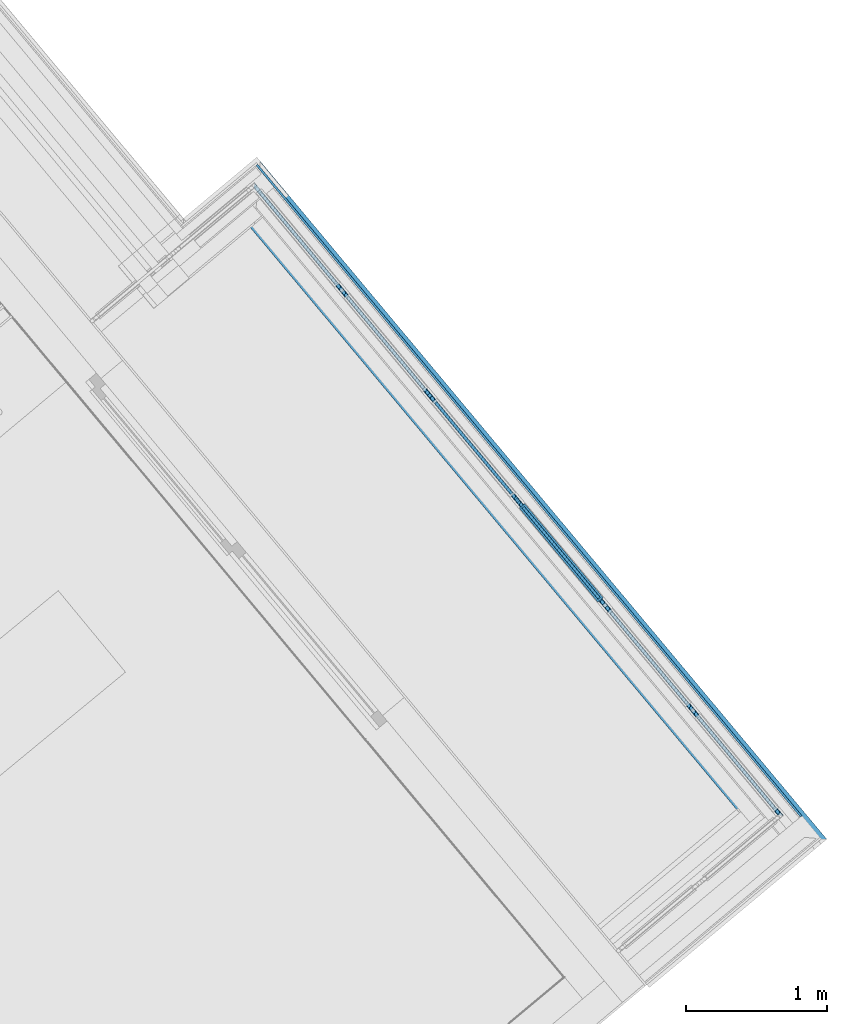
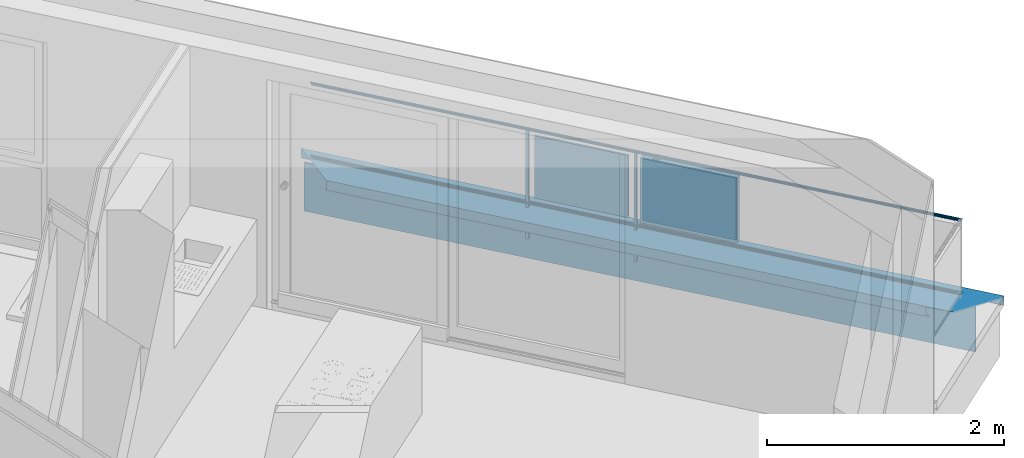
# One storey, part 39 of 58: 9 building element parts, 2 elements without a shape of their own.
"""IFC4 building model written with IfcOpenShell, lengths in metres."""

from ifc_helpers import new_model, entity, si_unit, converted_unit, derived_unit, direction, frame, origin_with_axes, place, context, subcontext, project, spatial, polygons, material, type_object, element, aggregate, save


model = new_model("IFC4")

# Units and contexts
model_context = context("Model", 3, precision=1e-05, world=origin_with_axes(), true_north=direction((0.0, 1.0)))
body_context = subcontext(model_context, "Body", "Model", "MODEL_VIEW")
ifc_project = project(units=[si_unit("LENGTHUNIT", "METRE"), si_unit("AREAUNIT", "SQUARE_METRE"), si_unit("VOLUMEUNIT", "CUBIC_METRE"), converted_unit("PLANEANGLEUNIT", "DEGREE", entity("IfcPlaneAngleMeasure", 0.0174532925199), si_unit("PLANEANGLEUNIT", "RADIAN"), dimensions=[0, 0, 0, 0, 0, 0, 0]), converted_unit("TIMEUNIT", "Year", entity("IfcTimeMeasure", 31556926.0), si_unit("TIMEUNIT", "SECOND"), dimensions=[0, 0, 1, 0, 0, 0, 0]), si_unit("MASSUNIT", "GRAM", prefix="KILO"), si_unit("THERMODYNAMICTEMPERATUREUNIT", "DEGREE_CELSIUS"), si_unit("LUMINOUSINTENSITYUNIT", "LUMEN"), si_unit("ENERGYUNIT", "JOULE", prefix="MEGA"), derived_unit("THERMALCONDUCTANCEUNIT", [(si_unit("POWERUNIT", "WATT"), 1), (si_unit("LENGTHUNIT", "METRE"), -1), (si_unit("THERMODYNAMICTEMPERATUREUNIT", "KELVIN"), -1)]), derived_unit("SPECIFICHEATCAPACITYUNIT", [(si_unit("ENERGYUNIT", "JOULE"), 1), (si_unit("MASSUNIT", "GRAM", prefix="KILO"), -1), (si_unit("THERMODYNAMICTEMPERATUREUNIT", "KELVIN"), -1)]), derived_unit("MASSDENSITYUNIT", [(si_unit("MASSUNIT", "GRAM", prefix="KILO"), 1), (si_unit("VOLUMEUNIT", "CUBIC_METRE"), -1)])], contexts=[model_context])

# Site, building, storey
site_placement = place(None, frame((-0.00153261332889, -0.00661245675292, 0.0), z_axis=(0.0, 0.0, 1.0), x_axis=(1.0, 0.0, 0.0)))
site = spatial("IfcSite", under=ifc_project, at=site_placement, Name="Site", CompositionType="ELEMENT")
building_placement = place(site_placement, origin_with_axes())
building = spatial("IfcBuilding", under=site, at=building_placement, Name="Building", CompositionType="ELEMENT")
storey_placement = place(building_placement, frame((0.0, 0.0, 5.7), z_axis=(0.0, 0.0, 1.0), x_axis=(1.0, 0.0, 0.0)))
storey = spatial("IfcBuildingStorey", under=building, at=storey_placement, Name="DG1", CompositionType="ELEMENT", Elevation=5.7)

# Wall, building element parts
wall_type = type_object("IfcWallType", Name="Bauteil - Attika Balkon 356 x 610", PredefinedType="NOTDEFINED")
wall_placement = place(storey_placement, frame((10.5963712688, 25.814957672, -0.2), z_axis=(0.0, 0.0, 1.0), x_axis=(0.641206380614, -0.767368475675, 0.0)))
wall = element("IfcWall", 1, at=wall_placement, inside=storey, type_object=wall_type, Name="Wand-004", PredefinedType="NOTDEFINED")
ifc_material_1 = material(Name="Zementputz")
building_element_part_1_placement = place(wall_placement, origin_with_axes())
building_element_part_1 = element("IfcBuildingElementPart", 2, at=building_element_part_1_placement, material=ifc_material_1, Name="Zementputz", PredefinedType="NOTDEFINED", context=body_context, shape_type="Tessellation", body=[
    polygons([(5.82966833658, 0.199999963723, 0.500000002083), (5.82966827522, 0.214999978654, 0.500000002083), (-0.200000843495, 0.214999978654, 0.500000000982), (-0.200000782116, 0.199999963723, 0.500000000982), (5.82966827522, 0.214999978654, 0.498915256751), (5.82966833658, 0.199999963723, 0.498915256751), (5.82966827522, 0.214999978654, 0.498822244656), (5.82966827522, 0.214999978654, 0.496604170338), (5.82966827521, 0.214999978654, 0.491006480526), (5.82966827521, 0.214999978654, 0.488695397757), (5.82966827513, 0.214999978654, 0.335), (5.82966827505, 0.214999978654, 0.200000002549), (5.82966827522, 0.214999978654, 0.0), (-0.200000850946, 0.214999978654, 0.0), (-0.200000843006, 0.214999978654, 0.2), (-0.200000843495, 0.214999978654, 0.334999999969), (-0.200000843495, 0.214999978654, 0.496604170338), (-0.200000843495, 0.214999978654, 0.498915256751), (-0.200000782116, 0.199999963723, 0.498915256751), (-0.200000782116, 0.199999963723, 0.496604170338), (-0.200000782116, 0.199999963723, 0.334999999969), (-0.200000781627, 0.199999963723, 0.2), (5.82966833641, 0.199999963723, 0.200000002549), (5.82966833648, 0.199999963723, 0.335), (5.82966833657, 0.199999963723, 0.488695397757), (5.82966833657, 0.199999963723, 0.491006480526), (5.82966833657, 0.199999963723, 0.496604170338), (5.82966833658, 0.199999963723, 0.498822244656), (5.82966833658, 0.199999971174, 0.0), (-0.200000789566, 0.199999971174, 0.0)], [[[1, 2, 3, 4]], [[5, 2, 1, 6]], [[2, 5, 7, 8, 9, 10, 11, 12, 13, 14, 15, 16, 17, 18, 3]], [[4, 3, 18, 19]], [[6, 1, 4, 19, 20, 21, 22, 23, 24, 25, 26, 27, 28]], [[5, 6, 28, 7]], [[7, 28, 27, 8]], [[8, 27, 26, 9]], [[9, 26, 25, 10]], [[10, 25, 24, 11]], [[11, 24, 23, 12]], [[12, 23, 29, 13]], [[13, 29, 30, 14]], [[22, 15, 14, 30]], [[21, 16, 15, 22]], [[20, 17, 16, 21]], [[19, 18, 17, 20]], [[29, 23, 22, 30]]], closed=True),
])
ifc_material_2 = material(Name="Stahl")
building_element_part_2_placement = place(wall_placement, origin_with_axes())
building_element_part_2 = element("IfcBuildingElementPart", 3, at=building_element_part_2_placement, material=ifc_material_2, Name="Stahl", PredefinedType="NOTDEFINED", context=body_context, shape_type="Tessellation", body=[
    polygons([(0.113601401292, -0.113600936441, 0.498915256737), (0.113601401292, -0.11360093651, 0.499999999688), (0.113601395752, -0.112247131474, 0.499999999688), (0.113601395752, -0.112247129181, 0.498915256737), (0.113601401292, -0.113600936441, 0.497561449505), (5.49897152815, -0.113600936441, 0.497561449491), (5.49897152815, -0.113600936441, 0.498822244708), (5.49897152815, -0.113600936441, 0.498915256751), (5.49897152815, -0.11360093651, 0.499999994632), (5.49897152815, -0.113600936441, 0.506731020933), (5.49897152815, -0.113600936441, 0.509050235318), (5.49897152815, -0.113600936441, 0.509099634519), (5.49897152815, -0.11360093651, 0.51136132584), (5.49897152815, -0.11360093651, 0.511410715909), (5.49897152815, -0.1136009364, 0.519224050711), (5.49897152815, -0.1136009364, 0.519273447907), (5.49897152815, -0.11360093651, 0.560000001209), (5.49897152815, -0.11360093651, 0.567947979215), (5.49897152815, -0.11360093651, 0.57388065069), (5.49897152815, -0.11360093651, 0.575576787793), (5.49897152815, -0.11360093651, 0.575979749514), (5.49897152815, -0.11360093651, 0.57982217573), (5.49897152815, -0.11360093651, 0.581921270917), (5.49897152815, -0.11360093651, 0.584015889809), (5.49897152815, -0.11360093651, 0.586106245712), (5.49897153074, -0.11360093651, 0.587937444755), (5.71744240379, -0.11360093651, 0.595846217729), (5.75350991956, -0.11360093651, 0.597151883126), (0.113601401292, -0.11360093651, 0.597151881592), (0.113601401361, -0.11360093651, 0.595846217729), (0.113601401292, -0.11360093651, 0.586106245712), (0.113601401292, -0.11360093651, 0.584015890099), (0.113601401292, -0.11360093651, 0.581921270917), (0.113601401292, -0.11360093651, 0.57982217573), (0.113601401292, -0.11360093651, 0.575576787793), (0.113601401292, -0.11360093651, 0.559999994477), (0.113601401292, -0.1136009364, 0.519273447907), (0.113601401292, -0.11360093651, 0.511410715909), (0.113601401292, -0.113600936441, 0.509099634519), (0.113601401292, -0.113600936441, 0.506731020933), (0.113601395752, -0.112247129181, 0.506731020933), (0.113601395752, -0.112247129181, 0.509099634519), (0.113601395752, -0.112247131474, 0.511410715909), (0.113601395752, -0.112247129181, 0.519273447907), (0.113601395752, -0.112247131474, 0.559999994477), (0.113601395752, -0.112247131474, 0.575576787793), (0.113601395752, -0.112247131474, 0.57982217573), (0.113601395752, -0.112247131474, 0.581921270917), (0.113601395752, -0.112247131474, 0.584015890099), (0.113601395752, -0.112247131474, 0.586106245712), (0.113601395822, -0.112247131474, 0.595846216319), (5.71744235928, -0.112247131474, 0.595846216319), (5.4989715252, -0.112247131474, 0.587937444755), (5.49897152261, -0.112247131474, 0.586106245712), (5.49897152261, -0.112247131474, 0.584015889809), (5.49897152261, -0.112247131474, 0.581921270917), (5.49897152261, -0.112247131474, 0.57982217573), (5.49897152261, -0.112247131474, 0.575979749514), (5.49897152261, -0.112247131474, 0.575576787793), (5.49897152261, -0.112247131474, 0.57388065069), (5.49897152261, -0.112247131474, 0.567947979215), (5.49897152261, -0.112247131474, 0.560000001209), (5.49897152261, -0.112247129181, 0.519273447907), (5.49897152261, -0.112247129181, 0.519224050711), (5.49897152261, -0.112247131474, 0.511410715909), (5.49897152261, -0.112247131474, 0.51136132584), (5.49897152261, -0.112247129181, 0.509099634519), (5.49897152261, -0.112247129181, 0.509050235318), (5.49897152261, -0.112247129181, 0.506731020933), (5.49897152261, -0.112247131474, 0.499999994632), (5.49897152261, -0.112247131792, 0.498915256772), (0.113601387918, -0.110332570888, 0.498915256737), (0.113601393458, -0.11168637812, 0.497561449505), (0.11264411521, -0.112643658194, 0.496604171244), (5.49897152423, -0.112643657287, 0.496604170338), (5.49897151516, -0.110425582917, 0.498822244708), (5.49897151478, -0.110332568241, 0.498915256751), (6.06894466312, 0.23927660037, 0.608570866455), (6.06894481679, 0.201708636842, 0.608570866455), (-0.201709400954, 0.20170855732, 0.608570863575), (6.06982112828, 0.202589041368, 0.608602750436), (6.0711685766, 0.202589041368, 0.608602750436), (6.07116841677, 0.241343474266, 0.610006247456), (5.82966915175, 0.241343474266, 0.610006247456), (5.82966915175, 0.242707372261, 0.610055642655), (-0.242708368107, 0.242707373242, 0.610055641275), (-0.203953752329, 0.203952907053, 0.608652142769), (0.113601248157, -0.0761775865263, 0.597151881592), (-0.201709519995, 0.239276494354, 0.608570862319), (0.112247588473, -0.112247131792, 0.498915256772), (5.49897151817, -0.111162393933, 0.499999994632), (5.52966960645, -0.111162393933, 0.499999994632), (5.52966957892, -0.104431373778, 0.506731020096), (0.104431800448, -0.104431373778, 0.506731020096), (0.11116284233, -0.111162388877, 0.499999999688), (0.112247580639, -0.110332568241, 0.498915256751), (0.111162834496, -0.109247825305, 0.499999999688), (0.105342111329, -0.103427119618, 0.505820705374), (5.52966957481, -0.103427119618, 0.505820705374), (5.52966959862, -0.109247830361, 0.499999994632), (5.49897151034, -0.109247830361, 0.499999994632), (6.06982097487, 0.240093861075, 0.608602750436), (6.07116842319, 0.240093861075, 0.608602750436), (6.07116841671, 0.24135992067, 0.60865214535), (6.07116841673, 0.241353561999, 0.511410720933), (6.0711684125, 0.242707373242, 0.511410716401), (6.0711684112, 0.242707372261, 0.610006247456), (5.82966915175, 0.242707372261, 0.610006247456), (-0.24135455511, 0.242707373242, 0.511410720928), (-0.241355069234, 0.242707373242, 0.519273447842), (-0.241357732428, 0.242707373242, 0.559999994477), (-0.241358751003, 0.242707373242, 0.575576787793), (-0.241359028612, 0.242707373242, 0.57982217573), (-0.241359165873, 0.242707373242, 0.581921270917), (-0.241359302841, 0.242707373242, 0.584015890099), (-0.241359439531, 0.242707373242, 0.586106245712), (-0.241360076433, 0.242707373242, 0.595846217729), (-0.241360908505, 0.242707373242, 0.608570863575), (-0.241360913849, 0.242707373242, 0.608652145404), (-0.203953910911, 0.242707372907, 0.608652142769), (6.06981460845, 0.242707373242, 0.511410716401), (6.06976521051, 0.242707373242, 0.511410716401), (6.06981460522, 0.242707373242, 0.51136132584), (6.0711684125, 0.242707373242, 0.51136132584), (6.0711684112, 0.242707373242, 0.510056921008), (-0.240793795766, 0.242707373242, 0.510056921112), (-0.239439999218, 0.242707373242, 0.511410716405), (-0.203953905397, 0.24135985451, 0.608652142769), (-0.241354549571, 0.241353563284, 0.511410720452), (-0.239439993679, 0.241353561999, 0.511410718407), (6.06976521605, 0.241353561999, 0.511410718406), (6.06981461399, 0.241353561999, 0.511410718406), (-0.241360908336, 0.241359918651, 0.608652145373), (-0.241360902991, 0.241359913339, 0.608570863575), (-0.241360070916, 0.241359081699, 0.595846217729), (-0.241359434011, 0.241358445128, 0.586106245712), (-0.241359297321, 0.241358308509, 0.584015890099), (-0.241359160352, 0.241358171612, 0.581921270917), (-0.24135902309, 0.241358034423, 0.57982217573), (-0.241358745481, 0.241357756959, 0.575576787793), (-0.241357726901, 0.241356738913, 0.559999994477), (-0.241355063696, 0.241354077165, 0.519273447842), (6.06976522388, 0.239439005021, 0.511410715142), (6.06981461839, 0.239488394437, 0.51136132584), (6.07116842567, 0.239488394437, 0.51136132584), (6.07116841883, 0.240842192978, 0.510007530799), (6.0711684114, 0.242657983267, 0.510007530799), (-0.241751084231, 0.241750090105, 0.509099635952), (6.07026053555, 0.241750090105, 0.509099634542), (-0.239439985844, 0.239439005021, 0.511410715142), (-0.232581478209, 0.234495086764, 0.518269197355), (-0.233491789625, 0.233490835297, 0.519273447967), (6.06981516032, 0.233490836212, 0.519273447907), (6.06981515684, 0.233540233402, 0.519224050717), (6.06195191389, 0.233540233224, 0.519224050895), (-0.232581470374, 0.232580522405, 0.518269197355), (6.06290676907, 0.232580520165, 0.518269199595), (6.06195191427, 0.233446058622, 0.519224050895), (6.06981515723, 0.233446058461, 0.519224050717)], [[[1, 2, 3, 4]], [[1, 5, 6, 7, 8, 9, 10, 11, 12, 13, 14, 15, 16, 17, 18, 19, 20, 21, 22, 23, 24, 25, 26, 27, 28, 29, 30, 31, 32, 33, 34, 35, 36, 37, 38, 39, 40, 2]], [[2, 40, 41, 3]], [[4, 3, 41, 42, 43, 44, 45, 46, 47, 48, 49, 50, 51, 52, 53, 54, 55, 56, 57, 58, 59, 60, 61, 62, 63, 64, 65, 66, 67, 68, 69, 70, 71]], [[5, 1, 4, 72, 73]], [[5, 74, 75, 6]], [[7, 6, 75, 76]], [[8, 7, 76, 77, 71]], [[9, 8, 71, 70]], [[9, 70, 69, 10]], [[11, 10, 69, 68]], [[12, 11, 68, 67]], [[13, 12, 67, 66]], [[14, 13, 66, 65]], [[14, 65, 64, 15]], [[16, 15, 64, 63]], [[17, 16, 63, 62]], [[18, 17, 62, 61]], [[19, 18, 61, 60]], [[20, 19, 60, 59]], [[21, 20, 59, 58]], [[22, 21, 58, 57]], [[23, 22, 57, 56]], [[24, 23, 56, 55]], [[24, 55, 54, 25]], [[26, 25, 54, 53]], [[27, 26, 53, 52]], [[27, 52, 78, 79, 28]], [[80, 29, 28, 79, 81, 82, 83, 84, 85, 86, 87]], [[30, 29, 88, 51]], [[31, 30, 51, 50]], [[49, 32, 31, 50]], [[48, 33, 32, 49]], [[34, 33, 48, 47]], [[35, 34, 47, 46]], [[36, 35, 46, 45]], [[36, 45, 44, 37]], [[43, 38, 37, 44]], [[39, 38, 43, 42]], [[40, 39, 42, 41]], [[51, 88, 89, 78, 52]], [[90, 4, 71, 91, 92, 93, 94, 95]], [[4, 90, 96, 72]], [[74, 73, 72, 96, 97, 98, 99, 100, 101, 77, 76, 75]], [[74, 5, 73]], [[71, 77, 101, 91]], [[81, 79, 78, 102]], [[29, 80, 89, 88]], [[82, 81, 102, 103]], [[82, 103, 104, 105, 106, 107, 83]], [[84, 83, 107, 108]], [[84, 108, 85]], [[109, 110, 111, 112, 113, 114, 115, 116, 117, 118, 119, 120, 86, 85, 108, 107, 106, 121, 122, 123, 124, 125, 126, 127]], [[87, 86, 120, 128]], [[80, 87, 128, 89]], [[128, 104, 103, 102, 78, 89]], [[100, 92, 91, 101]], [[92, 100, 99, 93]], [[98, 94, 93, 99]], [[97, 95, 94, 98]], [[96, 90, 95, 97]], [[129, 130, 131, 132, 105, 104, 128, 133, 134, 135, 136, 137, 138, 139, 140, 141, 142]], [[105, 132, 121, 106]], [[129, 142, 110, 109]], [[142, 141, 111, 110]], [[141, 140, 112, 111]], [[140, 139, 113, 112]], [[139, 138, 114, 113]], [[138, 137, 115, 114]], [[137, 136, 116, 115]], [[136, 135, 117, 116]], [[135, 134, 118, 117]], [[134, 133, 119, 118]], [[133, 128, 120, 119]], [[132, 131, 122, 121]], [[143, 144, 123, 122, 131]], [[144, 145, 124, 123]], [[145, 146, 147, 125, 124]], [[148, 126, 125, 147, 149]], [[150, 130, 127, 126, 148]], [[130, 129, 109, 127]], [[151, 152, 153, 154, 155, 131, 130]], [[156, 150, 148, 149, 146, 145, 144, 143, 157]], [[157, 143, 131, 155, 158]], [[146, 149, 147]], [[150, 156, 151, 130]], [[151, 156, 152]], [[152, 156, 157, 158, 159, 153]], [[153, 159, 154]], [[154, 159, 158, 155]]], closed=True),
])
aggregate(wall, [building_element_part_1, building_element_part_2])

# Railing, building element parts
railing_type = type_object("IfcRailingType", Name="Geländerart", PredefinedType="NOTDEFINED")
railing_placement = place(storey_placement, frame((13.1317464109, 20.5971564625, 0.38), z_axis=(0.0, 0.0, 1.0), x_axis=(1.0, 0.0, 0.0)))
railing = element("IfcRailing", 4, at=railing_placement, inside=storey, type_object=railing_type, Name="Geländer - 001", PredefinedType="NOTDEFINED")
ifc_material_3 = material(Name="Aluminium")
building_element_part_3_placement = place(railing_placement, origin_with_axes())
building_element_part_3 = element("IfcBuildingElementPart", 5, at=building_element_part_3_placement, material=ifc_material_3, Name="Aluminium", PredefinedType="NOTDEFINED", context=body_context, shape_type="Tessellation", body=[
    polygons([(1.19369716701, 0.886396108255, 0.825), (1.1940181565, 0.886367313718, 0.827604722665), (-2.52461931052, 5.33785427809, 0.827604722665), (-2.52464808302, 5.33753326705, 0.825), (1.1940181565, 0.886367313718, 0.822395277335), (1.19497137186, 0.886281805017, 0.81986969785), (1.19652785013, 0.88614218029, 0.8175), (1.1986402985, 0.885952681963, 0.815358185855), (1.2012445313, 0.885719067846, 0.813509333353), (1.20426142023, 0.885448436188, 0.812009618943), (1.20759929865, 0.885149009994, 0.810904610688), (1.21115674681, 0.884829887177, 0.810227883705), (1.21482567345, 0.884500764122, 0.81), (1.21849460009, 0.884171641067, 0.810227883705), (1.22205204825, 0.88385251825, 0.810904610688), (1.22538992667, 0.883553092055, 0.812009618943), (1.2284068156, 0.883282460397, 0.813509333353), (1.2310110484, 0.883048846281, 0.815358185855), (1.23312349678, 0.882859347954, 0.8175), (1.23467997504, 0.882719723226, 0.81986969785), (1.23563319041, 0.882634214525, 0.822395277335), (1.23595417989, 0.882605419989, 0.825), (1.23563319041, 0.882634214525, 0.827604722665), (1.23467997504, 0.882719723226, 0.83013030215), (1.23312349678, 0.882859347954, 0.8325), (1.2310110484, 0.883048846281, 0.834641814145), (1.2284068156, 0.883282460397, 0.836490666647), (1.22538992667, 0.883553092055, 0.837990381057), (1.22205204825, 0.88385251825, 0.839095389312), (1.21849460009, 0.884171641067, 0.839772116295), (1.21482567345, 0.884500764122, 0.84), (1.21115674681, 0.884829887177, 0.839772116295), (1.20759929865, 0.885149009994, 0.839095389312), (1.20426142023, 0.885448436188, 0.837990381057), (1.2012445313, 0.885719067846, 0.836490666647), (1.1986402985, 0.885952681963, 0.834641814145), (1.19652785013, 0.88614218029, 0.8325), (1.19497137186, 0.886281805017, 0.83013030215), (-2.52453386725, 5.33880755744, 0.83013030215), (-2.52439434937, 5.34036414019, 0.8325), (-2.52420499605, 5.34247673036, 0.834641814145), (-2.5239715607, 5.34508113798, 0.836490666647), (-2.52370113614, 5.34809822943, 0.837990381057), (-2.52340193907, 5.35143633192, 0.839095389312), (-2.52308306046, 5.35499401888, 0.839772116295), (-2.52275418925, 5.35866319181, 0.84), (-2.52242531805, 5.36233236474, 0.839772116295), (-2.52210643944, 5.36589005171, 0.839095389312), (-2.52180724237, 5.36922815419, 0.837990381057), (-2.52153681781, 5.37224524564, 0.836490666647), (-2.52130338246, 5.37484965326, 0.834641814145), (-2.52111402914, 5.37696224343, 0.8325), (-2.52097451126, 5.37851882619, 0.83013030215), (-2.52088906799, 5.37947210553, 0.827604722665), (-2.52086029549, 5.37979311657, 0.825), (-2.52088906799, 5.37947210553, 0.822395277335), (-2.52097451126, 5.37851882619, 0.81986969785), (-2.52111402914, 5.37696224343, 0.8175), (-2.52130338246, 5.37484965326, 0.815358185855), (-2.52153681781, 5.37224524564, 0.813509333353), (-2.52180724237, 5.36922815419, 0.812009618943), (-2.52210643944, 5.36589005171, 0.810904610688), (-2.52242531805, 5.36233236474, 0.810227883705), (-2.52275418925, 5.35866319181, 0.81), (-2.52308306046, 5.35499401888, 0.810227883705), (-2.52340193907, 5.35143633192, 0.810904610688), (-2.52370113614, 5.34809822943, 0.812009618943), (-2.5239715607, 5.34508113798, 0.813509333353), (-2.52420499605, 5.34247673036, 0.815358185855), (-2.52439434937, 5.34036414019, 0.8175), (-2.52453386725, 5.33880755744, 0.81986969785), (-2.52461931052, 5.33785427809, 0.822395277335)], [[[1, 2, 3, 4]], [[1, 5, 6, 7, 8, 9, 10, 11, 12, 13, 14, 15, 16, 17, 18, 19, 20, 21, 22, 23, 24, 25, 26, 27, 28, 29, 30, 31, 32, 33, 34, 35, 36, 37, 38, 2]], [[2, 38, 39, 3]], [[4, 3, 39, 40, 41, 42, 43, 44, 45, 46, 47, 48, 49, 50, 51, 52, 53, 54, 55, 56, 57, 58, 59, 60, 61, 62, 63, 64, 65, 66, 67, 68, 69, 70, 71, 72]], [[5, 1, 4, 72]], [[6, 5, 72, 71]], [[7, 6, 71, 70]], [[8, 7, 70, 69]], [[9, 8, 69, 68]], [[10, 9, 68, 67]], [[11, 10, 67, 66]], [[12, 11, 66, 65]], [[13, 12, 65, 64]], [[14, 13, 64, 63]], [[15, 14, 63, 62]], [[16, 15, 62, 61]], [[17, 16, 61, 60]], [[18, 17, 60, 59]], [[19, 18, 59, 58]], [[20, 19, 58, 57]], [[21, 20, 57, 56]], [[22, 21, 56, 55]], [[23, 22, 55, 54]], [[24, 23, 54, 53]], [[25, 24, 53, 52]], [[26, 25, 52, 51]], [[27, 26, 51, 50]], [[28, 27, 50, 49]], [[29, 28, 49, 48]], [[30, 29, 48, 47]], [[31, 30, 47, 46]], [[32, 31, 46, 45]], [[33, 32, 45, 44]], [[34, 33, 44, 43]], [[35, 34, 43, 42]], [[36, 35, 42, 41]], [[37, 36, 41, 40]], [[38, 37, 40, 39]]], closed=True),
])
building_element_part_4_placement = place(railing_placement, origin_with_axes())
building_element_part_4 = element("IfcBuildingElementPart", 6, at=building_element_part_4_placement, material=ifc_material_3, Name="Aluminium", PredefinedType="NOTDEFINED", context=body_context, shape_type="Tessellation", body=[
    polygons([(1.19369716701, 0.886396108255, 0.07), (1.1940181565, 0.886367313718, 0.072604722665), (-2.52461931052, 5.33785427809, 0.072604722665), (-2.52464808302, 5.33753326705, 0.07), (1.1940181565, 0.886367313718, 0.067395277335), (1.19497137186, 0.886281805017, 0.0648696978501), (1.19652785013, 0.88614218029, 0.0625), (1.1986402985, 0.885952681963, 0.0603581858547), (1.2012445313, 0.885719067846, 0.0585093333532), (1.20426142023, 0.885448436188, 0.0570096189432), (1.20759929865, 0.885149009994, 0.0559046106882), (1.21115674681, 0.884829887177, 0.0552278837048), (1.21482567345, 0.884500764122, 0.055), (1.21849460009, 0.884171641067, 0.0552278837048), (1.22205204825, 0.88385251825, 0.0559046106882), (1.22538992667, 0.883553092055, 0.0570096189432), (1.2284068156, 0.883282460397, 0.0585093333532), (1.2310110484, 0.883048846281, 0.0603581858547), (1.23312349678, 0.882859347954, 0.0625), (1.23467997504, 0.882719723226, 0.0648696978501), (1.23563319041, 0.882634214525, 0.067395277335), (1.23595417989, 0.882605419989, 0.07), (1.23563319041, 0.882634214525, 0.072604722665), (1.23467997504, 0.882719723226, 0.0751303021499), (1.23312349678, 0.882859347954, 0.0775), (1.2310110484, 0.883048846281, 0.0796418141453), (1.2284068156, 0.883282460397, 0.0814906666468), (1.22538992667, 0.883553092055, 0.0829903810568), (1.22205204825, 0.88385251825, 0.0840953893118), (1.21849460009, 0.884171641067, 0.0847721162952), (1.21482567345, 0.884500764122, 0.085), (1.21115674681, 0.884829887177, 0.0847721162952), (1.20759929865, 0.885149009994, 0.0840953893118), (1.20426142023, 0.885448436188, 0.0829903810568), (1.2012445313, 0.885719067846, 0.0814906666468), (1.1986402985, 0.885952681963, 0.0796418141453), (1.19652785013, 0.88614218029, 0.0775), (1.19497137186, 0.886281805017, 0.0751303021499), (-2.52453386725, 5.33880755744, 0.0751303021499), (-2.52439434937, 5.34036414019, 0.0775), (-2.52420499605, 5.34247673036, 0.0796418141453), (-2.5239715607, 5.34508113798, 0.0814906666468), (-2.52370113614, 5.34809822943, 0.0829903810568), (-2.52340193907, 5.35143633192, 0.0840953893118), (-2.52308306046, 5.35499401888, 0.0847721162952), (-2.52275418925, 5.35866319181, 0.085), (-2.52242531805, 5.36233236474, 0.0847721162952), (-2.52210643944, 5.36589005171, 0.0840953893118), (-2.52180724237, 5.36922815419, 0.0829903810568), (-2.52153681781, 5.37224524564, 0.0814906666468), (-2.52130338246, 5.37484965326, 0.0796418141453), (-2.52111402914, 5.37696224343, 0.0775), (-2.52097451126, 5.37851882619, 0.0751303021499), (-2.52088906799, 5.37947210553, 0.072604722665), (-2.52086029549, 5.37979311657, 0.07), (-2.52088906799, 5.37947210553, 0.067395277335), (-2.52097451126, 5.37851882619, 0.0648696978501), (-2.52111402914, 5.37696224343, 0.0625), (-2.52130338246, 5.37484965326, 0.0603581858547), (-2.52153681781, 5.37224524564, 0.0585093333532), (-2.52180724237, 5.36922815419, 0.0570096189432), (-2.52210643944, 5.36589005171, 0.0559046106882), (-2.52242531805, 5.36233236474, 0.0552278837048), (-2.52275418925, 5.35866319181, 0.055), (-2.52308306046, 5.35499401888, 0.0552278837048), (-2.52340193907, 5.35143633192, 0.0559046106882), (-2.52370113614, 5.34809822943, 0.0570096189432), (-2.5239715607, 5.34508113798, 0.0585093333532), (-2.52420499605, 5.34247673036, 0.0603581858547), (-2.52439434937, 5.34036414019, 0.0625), (-2.52453386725, 5.33880755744, 0.0648696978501), (-2.52461931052, 5.33785427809, 0.067395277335)], [[[1, 2, 3, 4]], [[1, 5, 6, 7, 8, 9, 10, 11, 12, 13, 14, 15, 16, 17, 18, 19, 20, 21, 22, 23, 24, 25, 26, 27, 28, 29, 30, 31, 32, 33, 34, 35, 36, 37, 38, 2]], [[2, 38, 39, 3]], [[4, 3, 39, 40, 41, 42, 43, 44, 45, 46, 47, 48, 49, 50, 51, 52, 53, 54, 55, 56, 57, 58, 59, 60, 61, 62, 63, 64, 65, 66, 67, 68, 69, 70, 71, 72]], [[5, 1, 4, 72]], [[6, 5, 72, 71]], [[7, 6, 71, 70]], [[8, 7, 70, 69]], [[9, 8, 69, 68]], [[10, 9, 68, 67]], [[11, 10, 67, 66]], [[12, 11, 66, 65]], [[13, 12, 65, 64]], [[14, 13, 64, 63]], [[15, 14, 63, 62]], [[16, 15, 62, 61]], [[17, 16, 61, 60]], [[18, 17, 60, 59]], [[19, 18, 59, 58]], [[20, 19, 58, 57]], [[21, 20, 57, 56]], [[22, 21, 56, 55]], [[23, 22, 55, 54]], [[24, 23, 54, 53]], [[25, 24, 53, 52]], [[26, 25, 52, 51]], [[27, 26, 51, 50]], [[28, 27, 50, 49]], [[29, 28, 49, 48]], [[30, 29, 48, 47]], [[31, 30, 47, 46]], [[32, 31, 46, 45]], [[33, 32, 45, 44]], [[34, 33, 44, 43]], [[35, 34, 43, 42]], [[36, 35, 42, 41]], [[37, 36, 41, 40]], [[38, 37, 40, 39]]], closed=True),
])
ifc_material_4 = material(Name="Profilit")
building_element_part_5_placement = place(railing_placement, origin_with_axes())
building_element_part_5 = element("IfcBuildingElementPart", 7, at=building_element_part_5_placement, material=ifc_material_4, Name="Profilit", PredefinedType="NOTDEFINED", context=body_context, shape_type="Tessellation", body=[
    polygons([(-0.619966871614, 3.06528652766, 0.135), (-0.0803807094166, 2.41936156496, 0.135), (-0.0803807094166, 2.41936156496, 0.775), (-0.619966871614, 3.06528652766, 0.775), (-0.0650316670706, 2.43218369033, 0.135), (-0.604617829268, 3.07810865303, 0.135), (-0.0650316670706, 2.43218369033, 0.775), (-0.604617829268, 3.07810865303, 0.775)], [[[1, 2, 3, 4]], [[5, 2, 1, 6]], [[7, 3, 2, 5]], [[4, 3, 7, 8]], [[1, 4, 8, 6]], [[7, 5, 6, 8]]], closed=True),
])
building_element_part_6_placement = place(railing_placement, origin_with_axes())
building_element_part_6 = element("IfcBuildingElementPart", 8, at=building_element_part_6_placement, material=ifc_material_3, Name="Aluminium", PredefinedType="NOTDEFINED", context=body_context, shape_type="Tessellation", body=[
    polygons([(-0.129118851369, 2.48940329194, 0.12), (-0.173996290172, 2.54312494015, 0.12), (-0.173996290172, 2.54312494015, 0.095), (-0.129118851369, 2.48940329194, 0.095), (-0.125281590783, 2.49260882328, 0.12), (-0.170159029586, 2.54633047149, 0.12), (-0.170159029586, 2.54633047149, 0.095), (-0.125281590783, 2.49260882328, 0.095)], [[[1, 2, 3, 4]], [[5, 6, 2, 1]], [[2, 6, 7, 3]], [[4, 3, 7, 8]], [[1, 4, 8, 5]], [[8, 7, 6, 5]]], closed=True),
    polygons([(-0.559716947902, 3.0048613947, 0.79), (-0.514839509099, 2.95113974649, 0.79), (-0.514839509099, 2.95113974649, 0.795), (-0.559716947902, 3.0048613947, 0.795), (-0.555879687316, 3.00806692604, 0.79), (-0.511002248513, 2.95434527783, 0.79), (-0.511002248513, 2.95434527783, 0.795), (-0.555879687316, 3.00806692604, 0.795)], [[[1, 2, 3, 4]], [[5, 6, 2, 1]], [[2, 6, 7, 3]], [[4, 3, 7, 8]], [[1, 4, 8, 5]], [[8, 7, 6, 5]]], closed=True),
    polygons([(-0.043903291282, 2.4302885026, 0.12), (-0.0822758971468, 2.39823318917, 0.12), (-0.641095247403, 3.06718171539, 0.12), (-0.602722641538, 3.09923702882, 0.12), (-0.0567254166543, 2.44563754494, 0.14), (-0.0682371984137, 2.43602095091, 0.14), (-0.0650316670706, 2.43218369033, 0.135), (-0.0803807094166, 2.41936156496, 0.135), (-0.0835862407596, 2.42319882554, 0.14), (-0.0950980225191, 2.41358223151, 0.14), (-0.628273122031, 3.05183267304, 0.14), (-0.628273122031, 3.05183267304, 0.77), (-0.0950980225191, 2.41358223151, 0.77), (-0.0950980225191, 2.41358223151, 0.14), (-0.0822758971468, 2.39823318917, 0.12), (-0.0822758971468, 2.39823318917, 0.79), (-0.641095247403, 3.06718171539, 0.79), (-0.602722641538, 3.09923702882, 0.79), (-0.043903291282, 2.4302885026, 0.79), (-0.043903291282, 2.4302885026, 0.12), (-0.0567254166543, 2.44563754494, 0.14), (-0.0567254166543, 2.44563754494, 0.77), (-0.589900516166, 3.08388798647, 0.77), (-0.589900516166, 3.08388798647, 0.14), (-0.601412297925, 3.07427139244, 0.14), (-0.601412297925, 3.07427139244, 0.77), (-0.0682371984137, 2.43602095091, 0.77), (-0.0682371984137, 2.43602095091, 0.14), (-0.0650316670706, 2.43218369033, 0.135), (-0.0650316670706, 2.43218369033, 0.775), (-0.604617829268, 3.07810865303, 0.775), (-0.604617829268, 3.07810865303, 0.135), (-0.619966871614, 3.06528652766, 0.135), (-0.619966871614, 3.06528652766, 0.775), (-0.0803807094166, 2.41936156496, 0.775), (-0.0803807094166, 2.41936156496, 0.135), (-0.0835862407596, 2.42319882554, 0.14), (-0.0835862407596, 2.42319882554, 0.77), (-0.616761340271, 3.06144926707, 0.77), (-0.616761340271, 3.06144926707, 0.14)], [[[1, 2, 3, 4]], [[1, 5, 6, 7, 8, 9, 10, 2]], [[2, 10, 11, 12, 13, 14, 15, 16, 17, 3]], [[4, 3, 17, 18]], [[5, 1, 4, 18, 19, 20, 21, 22, 23, 24]], [[6, 5, 24, 25]], [[7, 6, 25, 26, 27, 28, 29, 30, 31, 32]], [[8, 7, 32, 33]], [[9, 8, 33, 34, 35, 36, 37, 38, 39, 40]], [[10, 9, 40, 11]], [[11, 40, 39, 12]], [[12, 39, 38, 13]], [[13, 38, 37, 14]], [[20, 15, 14, 37, 36, 29, 28, 21]], [[19, 16, 15, 20]], [[18, 17, 16, 19]], [[27, 22, 21, 28]], [[26, 23, 22, 27]], [[25, 24, 23, 26]], [[35, 30, 29, 36]], [[34, 31, 30, 35]], [[33, 32, 31, 34]]], closed=True),
])
building_element_part_7_placement = place(railing_placement, origin_with_axes())
building_element_part_7 = element("IfcBuildingElementPart", 9, at=building_element_part_7_placement, material=ifc_material_3, Name="Aluminium", PredefinedType="NOTDEFINED", context=body_context, shape_type="Tessellation", body=[
    polygons([(-0.652384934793, 3.13918895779, -0.3), (-0.671571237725, 3.12316130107, -0.3), (-0.671571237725, 3.12316130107, 0.82), (-0.652384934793, 3.13918895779, 0.82), (-0.636357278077, 3.12000265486, -0.3), (-0.65554358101, 3.10397499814, -0.3), (-0.65554358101, 3.10397499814, 0.82), (-0.636357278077, 3.12000265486, 0.82)], [[[1, 2, 3, 4]], [[1, 5, 6, 2]], [[2, 6, 7, 3]], [[4, 3, 7, 8]], [[5, 1, 4, 8]], [[6, 5, 8, 7]]], closed=True),
])
building_element_part_8_placement = place(railing_placement, origin_with_axes())
building_element_part_8 = element("IfcBuildingElementPart", 10, at=building_element_part_8_placement, material=ifc_material_4, Name="Profilit", PredefinedType="NOTDEFINED", context=body_context, shape_type="Tessellation", body=[
    polygons([(-1.24289684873, 3.8109802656, 0.135), (-0.703310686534, 3.1650553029, 0.135), (-0.703310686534, 3.1650553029, 0.775), (-1.24289684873, 3.8109802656, 0.775), (-0.687961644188, 3.17787742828, 0.135), (-1.22754780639, 3.82380239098, 0.135), (-0.687961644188, 3.17787742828, 0.775), (-1.22754780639, 3.82380239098, 0.775)], [[[1, 2, 3, 4]], [[5, 2, 1, 6]], [[7, 3, 2, 5]], [[4, 3, 7, 8]], [[1, 4, 8, 6]], [[7, 5, 6, 8]]], closed=True),
])
building_element_part_9_placement = place(railing_placement, origin_with_axes())
building_element_part_9 = element("IfcBuildingElementPart", 11, at=building_element_part_9_placement, material=ifc_material_3, Name="Aluminium", PredefinedType="NOTDEFINED", context=body_context, shape_type="Tessellation", body=[
    polygons([(-1.27531491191, 3.88488269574, -0.3), (-1.29450121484, 3.86885503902, -0.3), (-1.29450121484, 3.86885503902, 0.82), (-1.27531491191, 3.88488269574, 0.82), (-1.25928725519, 3.86569639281, -0.3), (-1.27847355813, 3.84966873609, -0.3), (-1.27847355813, 3.84966873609, 0.82), (-1.25928725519, 3.86569639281, 0.82)], [[[1, 2, 3, 4]], [[1, 5, 6, 2]], [[2, 6, 7, 3]], [[4, 3, 7, 8]], [[5, 1, 4, 8]], [[6, 5, 8, 7]]], closed=True),
])
aggregate(railing, [building_element_part_3, building_element_part_4, building_element_part_5, building_element_part_6, building_element_part_7, building_element_part_8, building_element_part_9])

save(model, "model.ifc")
